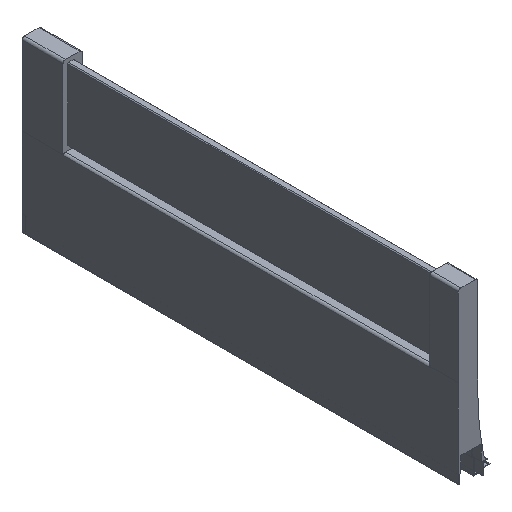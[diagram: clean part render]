
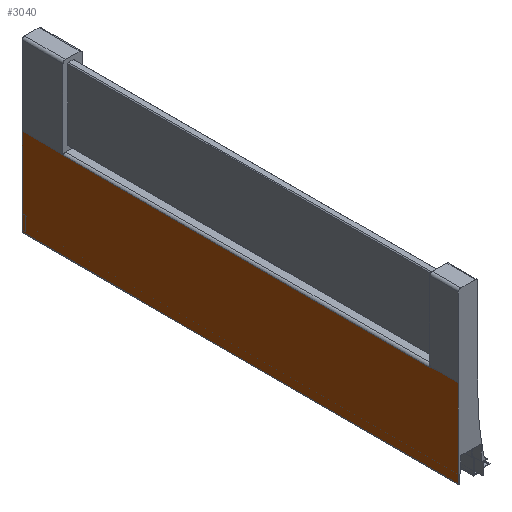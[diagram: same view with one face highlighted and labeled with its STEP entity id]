
A CAD part, isometric view. The second image highlights one B-rep face of the part: STEP entity #3040.
In plain terms, the highlighted planar face has unit normal (-1, 0, 0).
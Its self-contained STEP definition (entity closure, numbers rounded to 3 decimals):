
#382 = FACE_OUTER_BOUND ( 'NONE', #479, .T. ) ;
#479 = EDGE_LOOP ( 'NONE', ( #1589, #1590, #1592, #1593, #1594, #1595, #1596, #1597 ) ) ;
#1589 = ORIENTED_EDGE ( 'NONE', *, *, #4866, .F. ) ;
#1590 = ORIENTED_EDGE ( 'NONE', *, *, #4817, .F. ) ;
#1592 = ORIENTED_EDGE ( 'NONE', *, *, #4581, .F. ) ;
#1593 = ORIENTED_EDGE ( 'NONE', *, *, #4613, .T. ) ;
#1594 = ORIENTED_EDGE ( 'NONE', *, *, #4584, .T. ) ;
#1595 = ORIENTED_EDGE ( 'NONE', *, *, #4975, .F. ) ;
#1596 = ORIENTED_EDGE ( 'NONE', *, *, #4756, .F. ) ;
#1597 = ORIENTED_EDGE ( 'NONE', *, *, #4602, .F. ) ;
#1654 = VECTOR ( 'NONE', #3888, 1000. ) ;
#1655 = LINE ( 'NONE', #3887, #1654 ) ;
#1782 = CARTESIAN_POINT ( 'NONE',  ( -4.1, 540., -28.503 ) ) ;
#1783 = CARTESIAN_POINT ( 'NONE',  ( -4.1, 540., 80.248 ) ) ;
#2182 = CARTESIAN_POINT ( 'NONE',  ( -4.1, 0., -28.503 ) ) ;
#2213 = CARTESIAN_POINT ( 'NONE',  ( -4.1, 35.3, 80.248 ) ) ;
#2218 = CARTESIAN_POINT ( 'NONE',  ( -4.1, 489.3, 79.266 ) ) ;
#2226 = CARTESIAN_POINT ( 'NONE',  ( -4.1, 0., 80.248 ) ) ;
#2492 = CARTESIAN_POINT ( 'NONE',  ( -4.1, 35.3, 79.266 ) ) ;
#2503 = CARTESIAN_POINT ( 'NONE',  ( -4.1, 489.3, 80.248 ) ) ;
#2733 = VERTEX_POINT ( 'NONE', #2226 ) ;
#2741 = VERTEX_POINT ( 'NONE', #2218 ) ;
#2746 = VERTEX_POINT ( 'NONE', #2213 ) ;
#2777 = VERTEX_POINT ( 'NONE', #2182 ) ;
#2881 = DIRECTION ( 'NONE',  ( 0., 0., -1. ) ) ;
#2882 = DIRECTION ( 'NONE',  ( 1., 0., 0. ) ) ;
#2897 = CARTESIAN_POINT ( 'NONE',  ( -4.1, 540., -28.503 ) ) ;
#2901 = PLANE ( 'NONE',  #4441 ) ;
#3040 = ADVANCED_FACE ( 'NONE', ( #382 ), #2901, .F. ) ;
#3446 = CARTESIAN_POINT ( 'NONE',  ( -4.1, 540., -28.503 ) ) ;
#3448 = CARTESIAN_POINT ( 'NONE',  ( -4.1, 540., 80.248 ) ) ;
#3449 = DIRECTION ( 'NONE',  ( 0., -1., 0. ) ) ;
#3455 = DIRECTION ( 'NONE',  ( 0., -1., 0. ) ) ;
#3473 = CARTESIAN_POINT ( 'NONE',  ( -4.1, 35.3, -28.503 ) ) ;
#3476 = DIRECTION ( 'NONE',  ( 0., 0., 1. ) ) ;
#3497 = CARTESIAN_POINT ( 'NONE',  ( -4.1, 540., 78.498 ) ) ;
#3498 = DIRECTION ( 'NONE',  ( 0., 0., -1. ) ) ;
#3807 = CARTESIAN_POINT ( 'NONE',  ( -4.1, 540., 80.248 ) ) ;
#3808 = DIRECTION ( 'NONE',  ( 0., -1., 0. ) ) ;
#3887 = CARTESIAN_POINT ( 'NONE',  ( -4.1, 489.3, -28.503 ) ) ;
#3888 = DIRECTION ( 'NONE',  ( 0., 0., -1. ) ) ;
#3935 = CARTESIAN_POINT ( 'NONE',  ( -4.1, 645., 79.266 ) ) ;
#3985 = DIRECTION ( 'NONE',  ( 0., -1., 0. ) ) ;
#4195 = CARTESIAN_POINT ( 'NONE',  ( -4.1, 0., -28.503 ) ) ;
#4196 = DIRECTION ( 'NONE',  ( 0., 0., -1. ) ) ;
#4288 = VERTEX_POINT ( 'NONE', #2503 ) ;
#4301 = VERTEX_POINT ( 'NONE', #2492 ) ;
#4441 = AXIS2_PLACEMENT_3D ( 'NONE', #2897, #2882, #2881 ) ;
#4581 = EDGE_CURVE ( 'NONE', #5912, #4288, #5666, .T. ) ;
#4584 = EDGE_CURVE ( 'NONE', #5911, #2777, #5671, .T. ) ;
#4602 = EDGE_CURVE ( 'NONE', #4301, #2746, #5645, .T. ) ;
#4613 = EDGE_CURVE ( 'NONE', #5912, #5911, #5619, .T. ) ;
#4756 = EDGE_CURVE ( 'NONE', #2746, #2733, #5378, .T. ) ;
#4817 = EDGE_CURVE ( 'NONE', #4288, #2741, #1655, .T. ) ;
#4866 = EDGE_CURVE ( 'NONE', #2741, #4301, #5279, .T. ) ;
#4975 = EDGE_CURVE ( 'NONE', #2733, #2777, #5086, .T. ) ;
#5085 = VECTOR ( 'NONE', #4196, 1000. ) ;
#5086 = LINE ( 'NONE', #4195, #5085 ) ;
#5275 = VECTOR ( 'NONE', #3985, 1000. ) ;
#5279 = LINE ( 'NONE', #3935, #5275 ) ;
#5377 = VECTOR ( 'NONE', #3808, 1000. ) ;
#5378 = LINE ( 'NONE', #3807, #5377 ) ;
#5618 = VECTOR ( 'NONE', #3498, 1000. ) ;
#5619 = LINE ( 'NONE', #3497, #5618 ) ;
#5641 = VECTOR ( 'NONE', #3476, 1000. ) ;
#5645 = LINE ( 'NONE', #3473, #5641 ) ;
#5660 = VECTOR ( 'NONE', #3455, 1000. ) ;
#5665 = VECTOR ( 'NONE', #3449, 1000. ) ;
#5666 = LINE ( 'NONE', #3448, #5665 ) ;
#5671 = LINE ( 'NONE', #3446, #5660 ) ;
#5911 = VERTEX_POINT ( 'NONE', #1782 ) ;
#5912 = VERTEX_POINT ( 'NONE', #1783 ) ;
